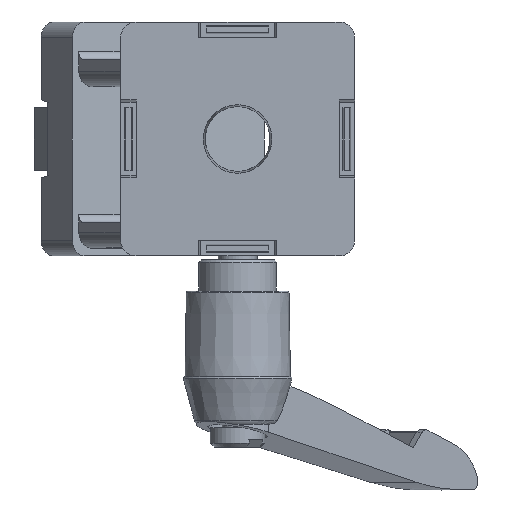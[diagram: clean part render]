
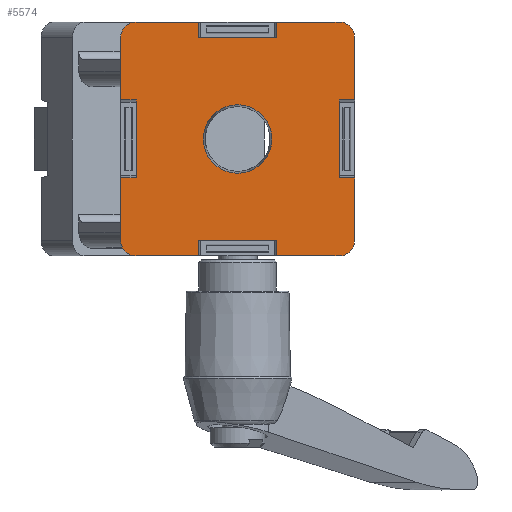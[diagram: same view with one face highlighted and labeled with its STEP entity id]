
A CAD part, front view. The second image highlights one B-rep face of the part: STEP entity #5574.
In plain terms, the highlighted planar face has unit normal (0, -1, 0).
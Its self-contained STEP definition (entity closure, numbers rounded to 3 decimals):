
#628=LINE('',#9513,#1035);
#629=LINE('',#9516,#1036);
#630=LINE('',#9520,#1037);
#631=LINE('',#9522,#1038);
#632=LINE('',#9524,#1039);
#633=LINE('',#9526,#1040);
#634=LINE('',#9528,#1041);
#635=LINE('',#9532,#1042);
#636=LINE('',#9534,#1043);
#637=LINE('',#9536,#1044);
#638=LINE('',#9538,#1045);
#639=LINE('',#9540,#1046);
#640=LINE('',#9544,#1047);
#641=LINE('',#9546,#1048);
#642=LINE('',#9548,#1049);
#643=LINE('',#9550,#1050);
#644=LINE('',#9552,#1051);
#645=LINE('',#9556,#1052);
#646=LINE('',#9558,#1053);
#647=LINE('',#9560,#1054);
#1035=VECTOR('',#7452,1000.);
#1036=VECTOR('',#7453,1000.);
#1037=VECTOR('',#7456,1000.);
#1038=VECTOR('',#7457,1000.);
#1039=VECTOR('',#7458,1000.);
#1040=VECTOR('',#7459,1000.);
#1041=VECTOR('',#7460,1000.);
#1042=VECTOR('',#7463,1000.);
#1043=VECTOR('',#7464,1000.);
#1044=VECTOR('',#7465,1000.);
#1045=VECTOR('',#7466,1000.);
#1046=VECTOR('',#7467,1000.);
#1047=VECTOR('',#7470,1000.);
#1048=VECTOR('',#7471,1000.);
#1049=VECTOR('',#7472,1000.);
#1050=VECTOR('',#7473,1000.);
#1051=VECTOR('',#7474,1000.);
#1052=VECTOR('',#7477,1000.);
#1053=VECTOR('',#7478,1000.);
#1054=VECTOR('',#7479,1000.);
#2281=ORIENTED_EDGE('',*,*,#3285,.F.);
#2282=ORIENTED_EDGE('',*,*,#3286,.F.);
#2283=ORIENTED_EDGE('',*,*,#3287,.F.);
#2284=ORIENTED_EDGE('',*,*,#3288,.F.);
#2285=ORIENTED_EDGE('',*,*,#3289,.F.);
#2286=ORIENTED_EDGE('',*,*,#3290,.F.);
#2287=ORIENTED_EDGE('',*,*,#3291,.F.);
#2288=ORIENTED_EDGE('',*,*,#3292,.F.);
#2289=ORIENTED_EDGE('',*,*,#3293,.F.);
#2290=ORIENTED_EDGE('',*,*,#3294,.F.);
#2291=ORIENTED_EDGE('',*,*,#3295,.F.);
#2292=ORIENTED_EDGE('',*,*,#3296,.F.);
#2293=ORIENTED_EDGE('',*,*,#3297,.T.);
#2294=ORIENTED_EDGE('',*,*,#3298,.T.);
#2295=ORIENTED_EDGE('',*,*,#3299,.F.);
#2296=ORIENTED_EDGE('',*,*,#3300,.F.);
#2297=ORIENTED_EDGE('',*,*,#3301,.F.);
#2298=ORIENTED_EDGE('',*,*,#3302,.F.);
#2299=ORIENTED_EDGE('',*,*,#3303,.T.);
#2300=ORIENTED_EDGE('',*,*,#3304,.T.);
#2301=ORIENTED_EDGE('',*,*,#3305,.F.);
#2302=ORIENTED_EDGE('',*,*,#3306,.F.);
#2303=ORIENTED_EDGE('',*,*,#3307,.F.);
#2304=ORIENTED_EDGE('',*,*,#3308,.T.);
#2305=ORIENTED_EDGE('',*,*,#3309,.F.);
#3285=EDGE_CURVE('',#3890,#3890,#4213,.T.);
#3286=EDGE_CURVE('',#3891,#3892,#628,.T.);
#3287=EDGE_CURVE('',#3893,#3891,#629,.T.);
#3288=EDGE_CURVE('',#3894,#3893,#4214,.T.);
#3289=EDGE_CURVE('',#3895,#3894,#630,.T.);
#3290=EDGE_CURVE('',#3896,#3895,#631,.T.);
#3291=EDGE_CURVE('',#3897,#3896,#632,.T.);
#3292=EDGE_CURVE('',#3898,#3897,#633,.T.);
#3293=EDGE_CURVE('',#3899,#3898,#634,.T.);
#3294=EDGE_CURVE('',#3900,#3899,#4215,.T.);
#3295=EDGE_CURVE('',#3901,#3900,#635,.T.);
#3296=EDGE_CURVE('',#3902,#3901,#636,.T.);
#3297=EDGE_CURVE('',#3902,#3903,#637,.T.);
#3298=EDGE_CURVE('',#3903,#3904,#638,.T.);
#3299=EDGE_CURVE('',#3905,#3904,#639,.T.);
#3300=EDGE_CURVE('',#3906,#3905,#4216,.T.);
#3301=EDGE_CURVE('',#3907,#3906,#640,.T.);
#3302=EDGE_CURVE('',#3908,#3907,#641,.T.);
#3303=EDGE_CURVE('',#3908,#3909,#642,.T.);
#3304=EDGE_CURVE('',#3909,#3910,#643,.T.);
#3305=EDGE_CURVE('',#3911,#3910,#644,.T.);
#3306=EDGE_CURVE('',#3912,#3911,#4217,.T.);
#3307=EDGE_CURVE('',#3913,#3912,#645,.T.);
#3308=EDGE_CURVE('',#3913,#3914,#646,.T.);
#3309=EDGE_CURVE('',#3892,#3914,#647,.T.);
#3890=VERTEX_POINT('',#9512);
#3891=VERTEX_POINT('',#9514);
#3892=VERTEX_POINT('',#9515);
#3893=VERTEX_POINT('',#9517);
#3894=VERTEX_POINT('',#9519);
#3895=VERTEX_POINT('',#9521);
#3896=VERTEX_POINT('',#9523);
#3897=VERTEX_POINT('',#9525);
#3898=VERTEX_POINT('',#9527);
#3899=VERTEX_POINT('',#9529);
#3900=VERTEX_POINT('',#9531);
#3901=VERTEX_POINT('',#9533);
#3902=VERTEX_POINT('',#9535);
#3903=VERTEX_POINT('',#9537);
#3904=VERTEX_POINT('',#9539);
#3905=VERTEX_POINT('',#9541);
#3906=VERTEX_POINT('',#9543);
#3907=VERTEX_POINT('',#9545);
#3908=VERTEX_POINT('',#9547);
#3909=VERTEX_POINT('',#9549);
#3910=VERTEX_POINT('',#9551);
#3911=VERTEX_POINT('',#9553);
#3912=VERTEX_POINT('',#9555);
#3913=VERTEX_POINT('',#9557);
#3914=VERTEX_POINT('',#9559);
#4213=CIRCLE('',#6175,4.394);
#4214=CIRCLE('',#6176,2.);
#4215=CIRCLE('',#6177,2.);
#4216=CIRCLE('',#6178,2.);
#4217=CIRCLE('',#6179,2.);
#4574=EDGE_LOOP('',(#2281));
#4575=EDGE_LOOP('',(#2282,#2283,#2284,#2285,#2286,#2287,#2288,#2289,#2290,
#2291,#2292,#2293,#2294,#2295,#2296,#2297,#2298,#2299,#2300,#2301,#2302,
#2303,#2304,#2305));
#5021=FACE_BOUND('',#4574,.T.);
#5022=FACE_BOUND('',#4575,.T.);
#5272=PLANE('',#6174);
#5574=ADVANCED_FACE('',(#5021,#5022),#5272,.F.);
#6174=AXIS2_PLACEMENT_3D('',#9510,#7448,#7449);
#6175=AXIS2_PLACEMENT_3D('',#9511,#7450,#7451);
#6176=AXIS2_PLACEMENT_3D('',#9518,#7454,#7455);
#6177=AXIS2_PLACEMENT_3D('',#9530,#7461,#7462);
#6178=AXIS2_PLACEMENT_3D('',#9542,#7468,#7469);
#6179=AXIS2_PLACEMENT_3D('',#9554,#7475,#7476);
#7448=DIRECTION('',(0.,1.,0.));
#7449=DIRECTION('',(0.,0.,1.));
#7450=DIRECTION('',(0.,-1.,0.));
#7451=DIRECTION('',(0.,0.,-1.));
#7452=DIRECTION('',(-1.,0.,0.));
#7453=DIRECTION('',(0.,0.,-1.));
#7454=DIRECTION('',(0.,1.,0.));
#7455=DIRECTION('',(1.,0.,0.));
#7456=DIRECTION('',(1.,0.,0.));
#7457=DIRECTION('',(0.,0.,1.));
#7458=DIRECTION('',(1.,0.,0.));
#7459=DIRECTION('',(0.,0.,-1.));
#7460=DIRECTION('',(1.,0.,0.));
#7461=DIRECTION('',(0.,1.,0.));
#7462=DIRECTION('',(1.,0.,0.));
#7463=DIRECTION('',(0.,0.,1.));
#7464=DIRECTION('',(-1.,0.,0.));
#7465=DIRECTION('',(0.,0.,-1.));
#7466=DIRECTION('',(-1.,0.,0.));
#7467=DIRECTION('',(0.,0.,1.));
#7468=DIRECTION('',(0.,1.,0.));
#7469=DIRECTION('',(1.,0.,0.));
#7470=DIRECTION('',(-1.,0.,0.));
#7471=DIRECTION('',(0.,0.,-1.));
#7472=DIRECTION('',(1.,0.,0.));
#7473=DIRECTION('',(0.,0.,-1.));
#7474=DIRECTION('',(-1.,0.,0.));
#7475=DIRECTION('',(0.,1.,0.));
#7476=DIRECTION('',(1.,0.,0.));
#7477=DIRECTION('',(0.,0.,-1.));
#7478=DIRECTION('',(-1.,0.,0.));
#7479=DIRECTION('',(0.,0.,-1.));
#9510=CARTESIAN_POINT('',(-13.,-22.5,-13.));
#9511=CARTESIAN_POINT('',(0.,-22.5,0.));
#9512=CARTESIAN_POINT('',(0.,-22.5,-4.394));
#9513=CARTESIAN_POINT('',(17.,-22.5,5.));
#9514=CARTESIAN_POINT('',(15.,-22.5,5.));
#9515=CARTESIAN_POINT('',(13.,-22.5,5.));
#9516=CARTESIAN_POINT('',(15.,-22.5,13.));
#9517=CARTESIAN_POINT('',(15.,-22.5,13.));
#9518=CARTESIAN_POINT('',(13.,-22.5,13.));
#9519=CARTESIAN_POINT('',(13.,-22.5,15.));
#9520=CARTESIAN_POINT('',(-13.,-22.5,15.));
#9521=CARTESIAN_POINT('',(5.,-22.5,15.));
#9522=CARTESIAN_POINT('',(5.,-22.5,-13.));
#9523=CARTESIAN_POINT('',(5.,-22.5,13.));
#9524=CARTESIAN_POINT('',(-5.,-22.5,13.));
#9525=CARTESIAN_POINT('',(-5.,-22.5,13.));
#9526=CARTESIAN_POINT('',(-5.,-22.5,-13.));
#9527=CARTESIAN_POINT('',(-5.,-22.5,15.));
#9528=CARTESIAN_POINT('',(-13.,-22.5,15.));
#9529=CARTESIAN_POINT('',(-13.,-22.5,15.));
#9530=CARTESIAN_POINT('',(-13.,-22.5,13.));
#9531=CARTESIAN_POINT('',(-15.,-22.5,13.));
#9532=CARTESIAN_POINT('',(-15.,-22.5,-13.));
#9533=CARTESIAN_POINT('',(-15.,-22.5,5.));
#9534=CARTESIAN_POINT('',(-13.,-22.5,5.));
#9535=CARTESIAN_POINT('',(-13.,-22.5,5.));
#9536=CARTESIAN_POINT('',(-13.,-22.5,5.));
#9537=CARTESIAN_POINT('',(-13.,-22.5,-5.));
#9538=CARTESIAN_POINT('',(-13.,-22.5,-5.));
#9539=CARTESIAN_POINT('',(-15.,-22.5,-5.));
#9540=CARTESIAN_POINT('',(-15.,-22.5,-13.));
#9541=CARTESIAN_POINT('',(-15.,-22.5,-13.));
#9542=CARTESIAN_POINT('',(-13.,-22.5,-13.));
#9543=CARTESIAN_POINT('',(-13.,-22.5,-15.));
#9544=CARTESIAN_POINT('',(13.,-22.5,-15.));
#9545=CARTESIAN_POINT('',(-5.,-22.5,-15.));
#9546=CARTESIAN_POINT('',(-5.,-22.5,-13.));
#9547=CARTESIAN_POINT('',(-5.,-22.5,-13.));
#9548=CARTESIAN_POINT('',(-5.,-22.5,-13.));
#9549=CARTESIAN_POINT('',(5.,-22.5,-13.));
#9550=CARTESIAN_POINT('',(5.,-22.5,-13.));
#9551=CARTESIAN_POINT('',(5.,-22.5,-15.));
#9552=CARTESIAN_POINT('',(13.,-22.5,-15.));
#9553=CARTESIAN_POINT('',(13.,-22.5,-15.));
#9554=CARTESIAN_POINT('',(13.,-22.5,-13.));
#9555=CARTESIAN_POINT('',(15.,-22.5,-13.));
#9556=CARTESIAN_POINT('',(15.,-22.5,13.));
#9557=CARTESIAN_POINT('',(15.,-22.5,-5.));
#9558=CARTESIAN_POINT('',(17.,-22.5,-5.));
#9559=CARTESIAN_POINT('',(13.,-22.5,-5.));
#9560=CARTESIAN_POINT('',(13.,-22.5,5.));
